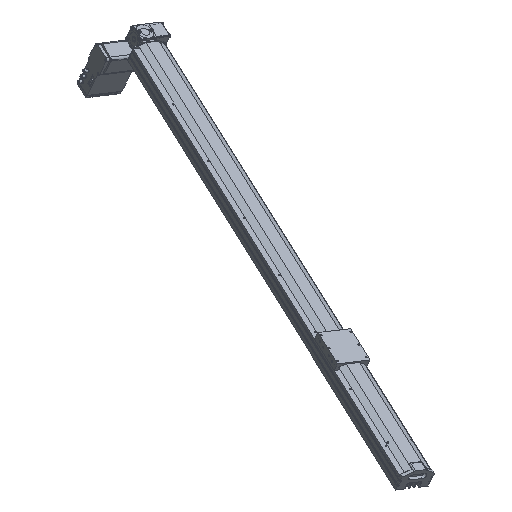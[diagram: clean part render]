
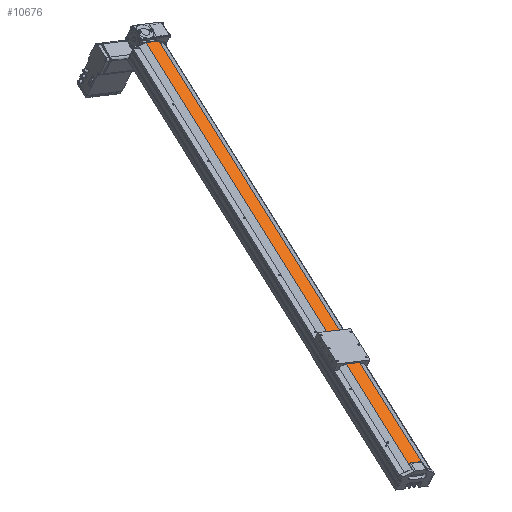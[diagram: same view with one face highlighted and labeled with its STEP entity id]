
A CAD part, top view. The second image highlights one B-rep face of the part: STEP entity #10676.
In plain terms, the highlighted planar face has unit normal (0.35, 0.687, 0.637) as drawn and (0, 1, 0) by its records, which use the part's own axes.
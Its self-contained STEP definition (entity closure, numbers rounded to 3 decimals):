
#9003 = EDGE_CURVE ( 'NONE', #9012, #9015, #20724, .T. ) ;
#9012 = VERTEX_POINT ( 'NONE', #20701 ) ;
#9015 = VERTEX_POINT ( 'NONE', #20696 ) ;
#10558 = VERTEX_POINT ( 'NONE', #23171 ) ;
#10623 = VERTEX_POINT ( 'NONE', #23291 ) ;
#10624 = EDGE_LOOP ( 'NONE', ( #10670, #10641, #10645, #10648, #10663 ) ) ;
#10626 = EDGE_CURVE ( 'NONE', #9015, #10558, #23281, .T. ) ;
#10641 = ORIENTED_EDGE ( 'NONE', *, *, #10678, .F. ) ;
#10642 = EDGE_CURVE ( 'NONE', #10677, #10623, #23315, .T. ) ;
#10645 = ORIENTED_EDGE ( 'NONE', *, *, #10642, .F. ) ;
#10647 = EDGE_CURVE ( 'NONE', #10677, #9012, #23364, .T. ) ;
#10648 = ORIENTED_EDGE ( 'NONE', *, *, #10647, .T. ) ;
#10663 = ORIENTED_EDGE ( 'NONE', *, *, #9003, .T. ) ;
#10670 = ORIENTED_EDGE ( 'NONE', *, *, #10626, .T. ) ;
#10676 = ADVANCED_FACE ( 'NONE', ( #23391 ), #23402, .F. ) ;
#10677 = VERTEX_POINT ( 'NONE', #23387 ) ;
#10678 = EDGE_CURVE ( 'NONE', #10623, #10558, #23379, .T. ) ;
#20696 = CARTESIAN_POINT ( 'NONE',  ( 20., 61.75, 0. ) ) ;
#20701 = CARTESIAN_POINT ( 'NONE',  ( 20., 61.75, 5.114 ) ) ;
#20718 = DIRECTION ( 'NONE',  ( 0., 0., -1. ) ) ;
#20719 = VECTOR ( 'NONE', #20718, 1000. ) ;
#20723 = CARTESIAN_POINT ( 'NONE',  ( 20., 61.75, 1500. ) ) ;
#20724 = LINE ( 'NONE', #20723, #20719 ) ;
#23171 = CARTESIAN_POINT ( 'NONE',  ( -20., 61.75, 0. ) ) ;
#23278 = DIRECTION ( 'NONE',  ( -1., 0., 0. ) ) ;
#23279 = VECTOR ( 'NONE', #23278, 1000. ) ;
#23280 = CARTESIAN_POINT ( 'NONE',  ( 20., 61.75, 0. ) ) ;
#23281 = LINE ( 'NONE', #23280, #23279 ) ;
#23291 = CARTESIAN_POINT ( 'NONE',  ( -20., 61.75, 1500. ) ) ;
#23309 = DIRECTION ( 'NONE',  ( -1., 0., 0. ) ) ;
#23310 = VECTOR ( 'NONE', #23309, 1000. ) ;
#23315 = LINE ( 'NONE', #23324, #23310 ) ;
#23324 = CARTESIAN_POINT ( 'NONE',  ( 20., 61.75, 1500. ) ) ;
#23361 = DIRECTION ( 'NONE',  ( 0., 0., -1. ) ) ;
#23362 = VECTOR ( 'NONE', #23361, 1000. ) ;
#23363 = CARTESIAN_POINT ( 'NONE',  ( 20., 61.75, 1500. ) ) ;
#23364 = LINE ( 'NONE', #23363, #23362 ) ;
#23376 = DIRECTION ( 'NONE',  ( 0., 0., -1. ) ) ;
#23377 = VECTOR ( 'NONE', #23376, 1000. ) ;
#23378 = CARTESIAN_POINT ( 'NONE',  ( -20., 61.75, 1500. ) ) ;
#23379 = LINE ( 'NONE', #23378, #23377 ) ;
#23382 = DIRECTION ( 'NONE',  ( 0., 0., -1. ) ) ;
#23383 = DIRECTION ( 'NONE',  ( 0., -1., 0. ) ) ;
#23387 = CARTESIAN_POINT ( 'NONE',  ( 20., 61.75, 1500. ) ) ;
#23390 = CARTESIAN_POINT ( 'NONE',  ( 20., 61.75, 1500. ) ) ;
#23391 = FACE_OUTER_BOUND ( 'NONE', #10624, .T. ) ;
#23398 = AXIS2_PLACEMENT_3D ( 'NONE', #23390, #23383, #23382 ) ;
#23402 = PLANE ( 'NONE',  #23398 ) ;
